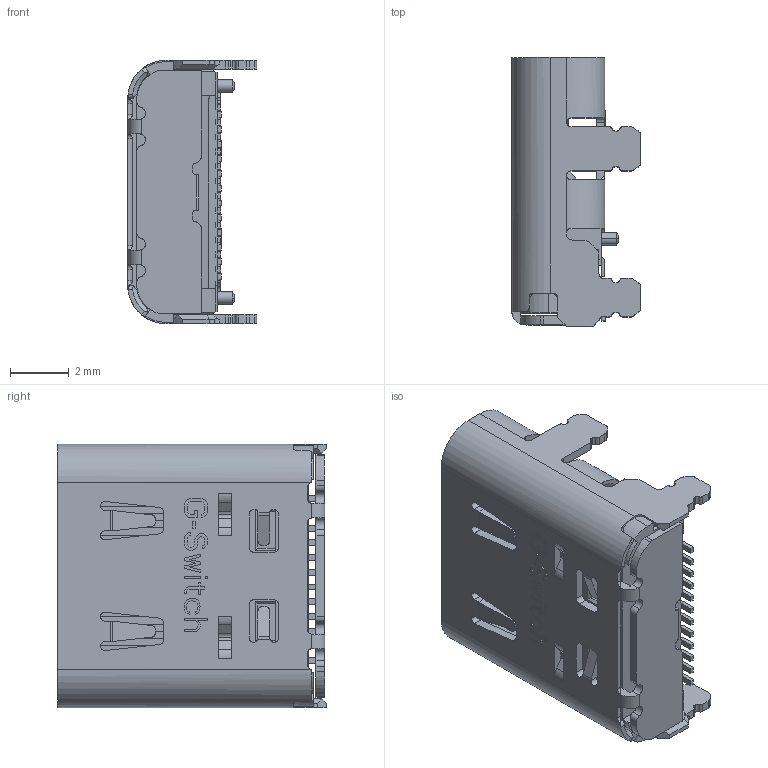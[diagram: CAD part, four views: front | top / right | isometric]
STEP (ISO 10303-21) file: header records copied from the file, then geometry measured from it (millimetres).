
FILE_DESCRIPTION((''),'2;1');
FILE_NAME('GT-USB-7013C_ASM','2023-05-15T',('WYH'),(''),'PRO/ENGINEER BY PARAMETRIC TECHNOLOGY CORPORATION, 2013040','PRO/ENGINEER BY PARAMETRIC TECHNOLOGY CORPORATION, 2013040','');
FILE_SCHEMA(('CONFIG_CONTROL_DESIGN'));
Length unit declared in the file: millimetre
Products named in the file (1): GT-USB-7013C_ASM
Bounding box: 4.4 x 9.12 x 8.94 mm (x, y, z)
Surface area: 614.7 mm2
Topology: 55 solids, 58 shells, 1886 faces, 5240 edges, 3446 vertices
Faces by surface type: plane 1369, cylinder 439, torus 48, cone 28, bspline 2
Entity records: 60608 total; most frequent: CARTESIAN_POINT 11797, ORIENTED_EDGE 10440, DIRECTION 9755, EDGE_CURVE 5240, VECTOR 4053, LINE 4053, VERTEX_POINT 3446, AXIS2_PLACEMENT_3D 2851
